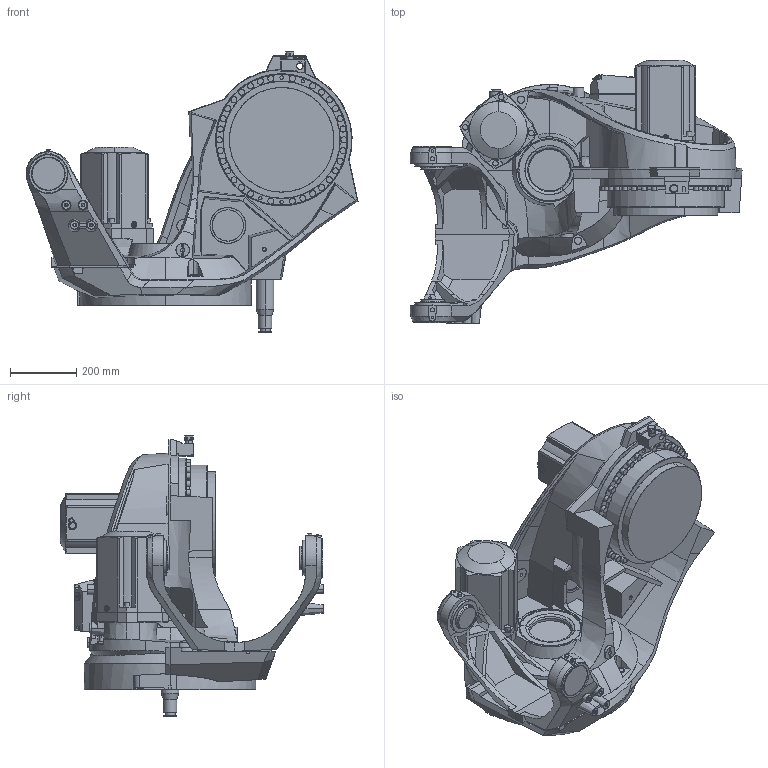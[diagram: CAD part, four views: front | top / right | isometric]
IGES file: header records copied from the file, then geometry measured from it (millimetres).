
Start section: SolidWorks IGES file using analytic representation for surfaces
Global section: file name: C:\Users\SEAMSTO1\OneDrive - ABB\PT\Macro\IGES\IRB6760_150kg-350_OC_00_IGES_J\IRB6760_All_OC_00_LINK01_CAD.igs; native system: SolidWorks 2024; preprocessor: SolidWorks 2024; author: SEAMSTO1; date: 250930.150705; units: millimetre
Bounding box: 999.96 x 793.6 x 849.3 mm (x, y, z)
Surface area: 3233092.8 mm2 (no closed solid volume)
Topology: 0 solids, 0 shells, 1743 faces, 28820 edges, 28796 vertices
Faces by surface type: bspline 1047, revolution 696
